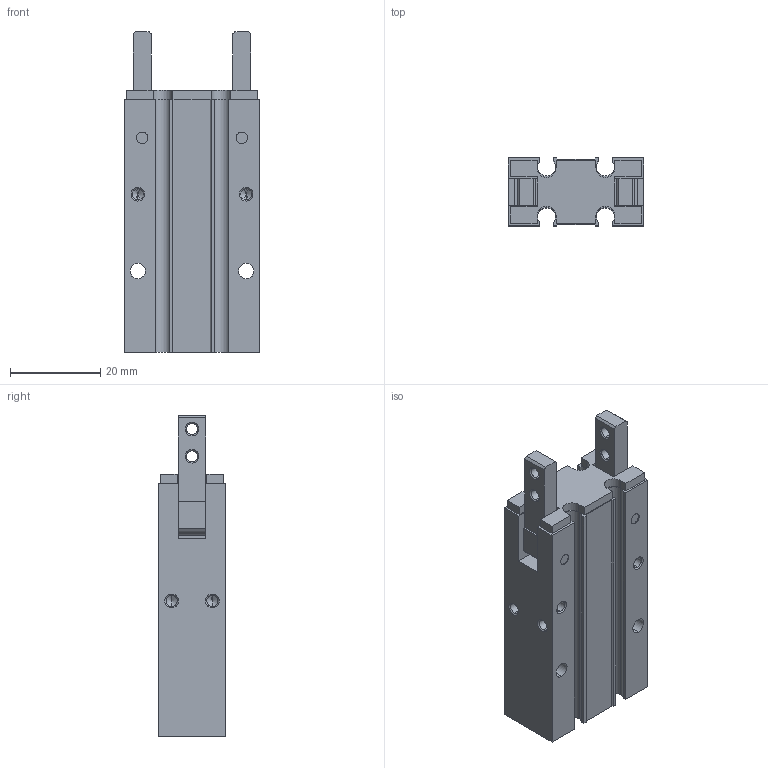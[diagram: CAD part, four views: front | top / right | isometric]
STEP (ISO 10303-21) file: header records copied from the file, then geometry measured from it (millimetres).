
FILE_DESCRIPTION (( 'STEP AP203' ), '1' );
FILE_NAME ('CHY2-10D.STEP', '2018-11-23T18:51:14', ( '' ), ( '' ), 'SwSTEP 2.0', 'SolidWorks 2018', '' );
FILE_SCHEMA (( 'CONFIG_CONTROL_DESIGN' ));
Length unit declared in the file: millimetre
Products named in the file (1): CHY2-10D
Bounding box: 30 x 15 x 71 mm (x, y, z)
Volume: 21827.6 mm3; surface area: 11125.2 mm2
Topology: 3 solids, 3 shells, 223 faces, 573 edges, 352 vertices
Faces by surface type: plane 88, cylinder 79, cone 56
Entity records: 6714 total; most frequent: DIRECTION 1195, CARTESIAN_POINT 1129, ORIENTED_EDGE 1106, EDGE_CURVE 553, AXIS2_PLACEMENT_3D 418, LINE 359, VECTOR 359, VERTEX_POINT 352
